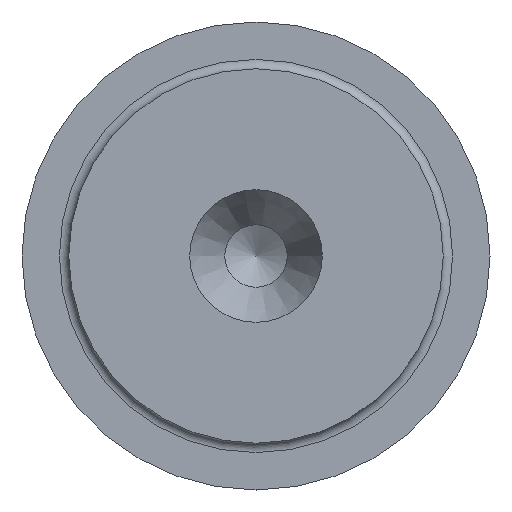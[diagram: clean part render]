
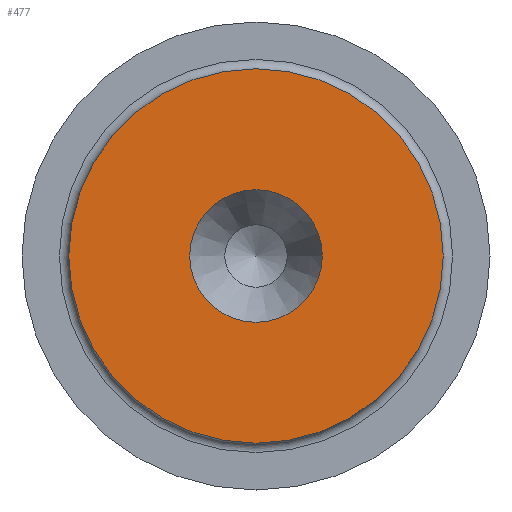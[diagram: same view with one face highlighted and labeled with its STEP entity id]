
A CAD part, left-side view. The second image highlights one B-rep face of the part: STEP entity #477.
In plain terms, the highlighted planar face has unit normal (-1, 0, 0).
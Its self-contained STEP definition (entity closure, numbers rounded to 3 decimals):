
#26=FACE_BOUND('',#99,.T.);
#40=PLANE('',#546);
#65=FACE_OUTER_BOUND('',#98,.T.);
#98=EDGE_LOOP('',(#416));
#99=EDGE_LOOP('',(#417));
#192=CIRCLE('',#545,2.125);
#193=CIRCLE('',#547,6.);
#238=VERTEX_POINT('',#896);
#239=VERTEX_POINT('',#900);
#299=EDGE_CURVE('',#238,#238,#192,.T.);
#300=EDGE_CURVE('',#239,#239,#193,.T.);
#416=ORIENTED_EDGE('',*,*,#300,.F.);
#417=ORIENTED_EDGE('',*,*,#299,.T.);
#477=ADVANCED_FACE('',(#65,#26),#40,.T.);
#545=AXIS2_PLACEMENT_3D('',#898,#663,#664);
#546=AXIS2_PLACEMENT_3D('',#899,#665,#666);
#547=AXIS2_PLACEMENT_3D('',#901,#667,#668);
#663=DIRECTION('center_axis',(1.,0.,0.));
#664=DIRECTION('ref_axis',(0.,0.,-1.));
#665=DIRECTION('center_axis',(-1.,0.,0.));
#666=DIRECTION('ref_axis',(0.,0.,1.));
#667=DIRECTION('center_axis',(1.,0.,0.));
#668=DIRECTION('ref_axis',(0.,0.,-1.));
#896=CARTESIAN_POINT('',(0.,-2.125,0.));
#898=CARTESIAN_POINT('Origin',(0.,0.,0.));
#899=CARTESIAN_POINT('Origin',(0.,6.,0.));
#900=CARTESIAN_POINT('',(0.,-6.,0.));
#901=CARTESIAN_POINT('Origin',(0.,0.,0.));
